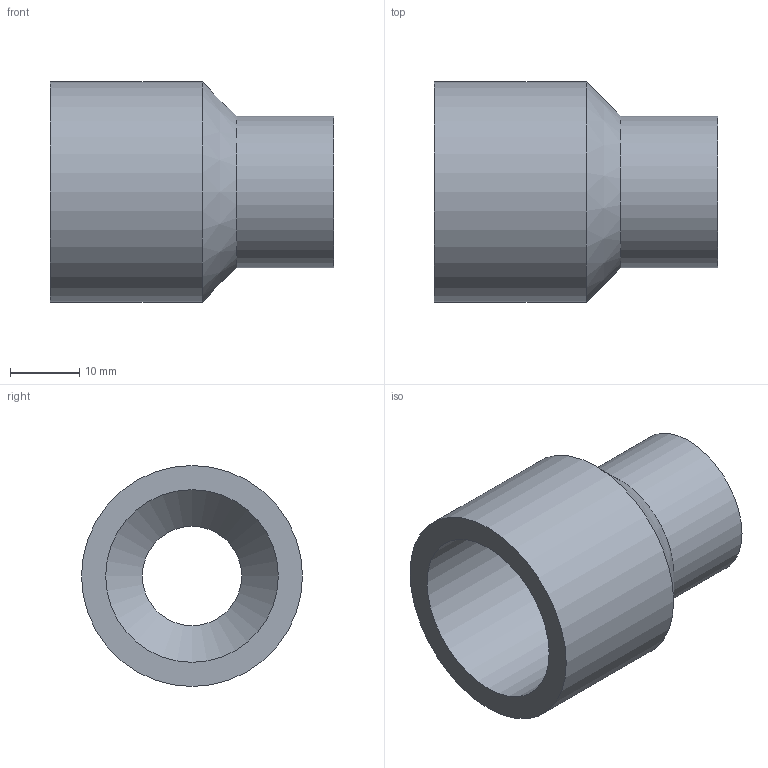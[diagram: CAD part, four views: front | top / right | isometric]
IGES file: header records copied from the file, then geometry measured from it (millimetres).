
Global section: file name: 050200032016.ipt; native system: Autodesk Inventor 2015; preprocessor: unknown; author: KIM; date: 20171207.164125; units: millimetre
Bounding box: 41 x 32 x 32 mm (x, y, z)
Volume: 11675.2 mm3; surface area: 7091.7 mm2
Topology: 1 solids, 1 shells, 10 faces, 23 edges, 16 vertices
Faces by surface type: revolution 4, plane 3, cylinder 2, cone 1
Full cylindrical faces by diameter (mm): 22 x1, 32 x1
